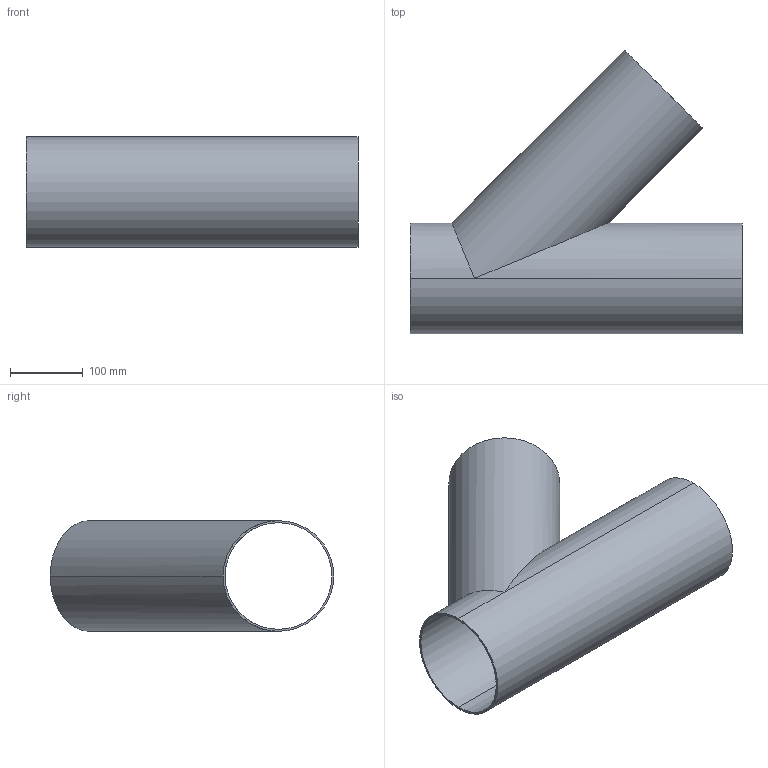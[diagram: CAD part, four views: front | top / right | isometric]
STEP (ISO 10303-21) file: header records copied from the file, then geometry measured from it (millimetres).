
FILE_DESCRIPTION (( 'STEP AP203' ), '1' );
FILE_NAME ('E28WA6.0.STEP', '2018-05-04T12:41:56', ( 'vneprd' ), ( 'Microsoft' ), 'SwSTEP 2.0', 'SolidWorks 2014', '' );
FILE_SCHEMA (( 'CONFIG_CONTROL_DESIGN' ));
Length unit declared in the file: inch
Products named in the file (1): E28WA6.0
Bounding box: 457.2 x 390.51 x 152.4 mm (x, y, z)
Volume: 1259809.7 mm3; surface area: 661023.5 mm2
Topology: 1 solids, 1 shells, 13 faces, 31 edges, 20 vertices
Faces by surface type: cylinder 9, plane 4
Entity records: 470 total; most frequent: CARTESIAN_POINT 86, DIRECTION 66, ORIENTED_EDGE 62, EDGE_CURVE 31, AXIS2_PLACEMENT_3D 28, VERTEX_POINT 20, EDGE_LOOP 17, CIRCLE 14
